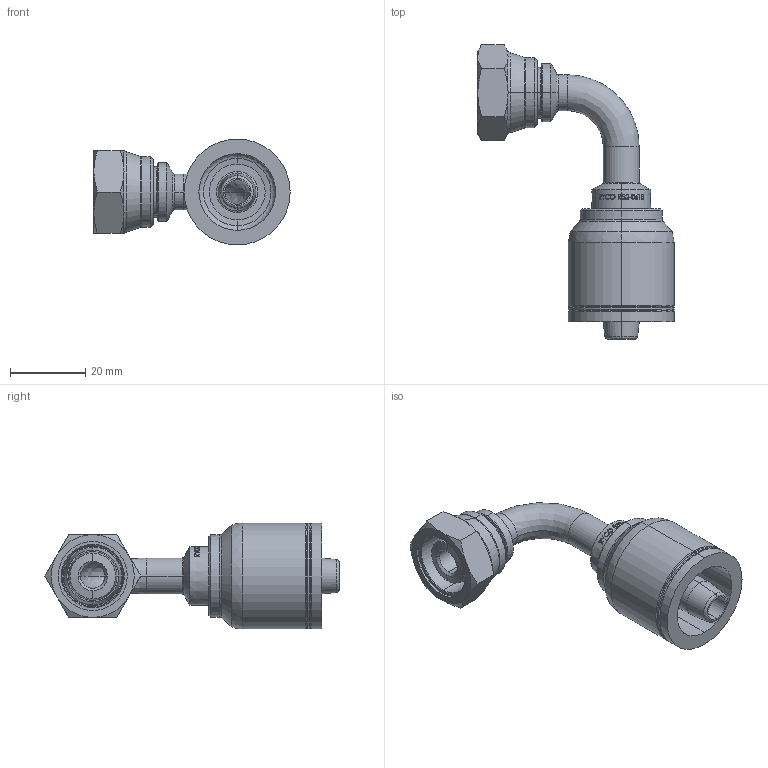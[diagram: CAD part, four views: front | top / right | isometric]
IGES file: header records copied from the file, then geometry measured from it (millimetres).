
Start section: SolidWorks IGES file using analytic representation for surfaces
Global section: file name: X:\SolidWorks\Solidworks models-to be checked\Customer Part Models\T252-0618.IGS; native system: SolidWorks 2010; preprocessor: SolidWorks 2010; author: MKitchenham; date: 120322.155603; units: millimetre
Bounding box: 52.14 x 78.1 x 28.12 mm (x, y, z)
Volume: 17291.6 mm3; surface area: 12756.6 mm2
Topology: 3 solids, 3 shells, 309 faces, 742 edges, 464 vertices
Faces by surface type: revolution 156, bspline 96, plane 57
